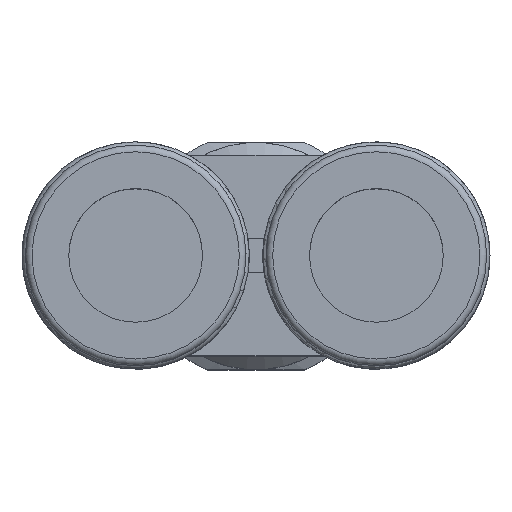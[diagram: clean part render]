
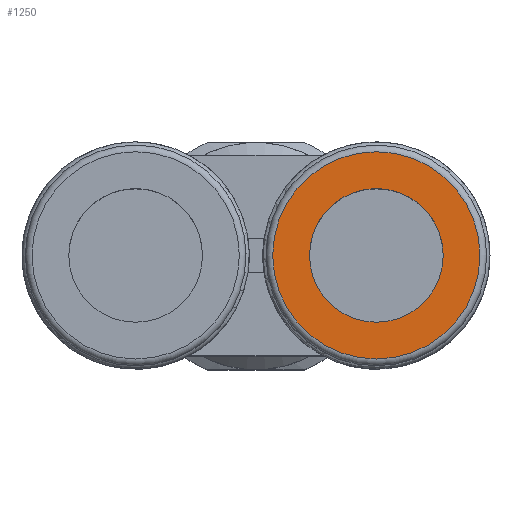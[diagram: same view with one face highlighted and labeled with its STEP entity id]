
A CAD part, top view. The second image highlights one B-rep face of the part: STEP entity #1250.
In plain terms, the highlighted planar face has unit normal (0, 0, 1).
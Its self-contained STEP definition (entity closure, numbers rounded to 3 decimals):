
#207=PLANE($,#1358);
#238=FACE_BOUND($,#372,.T.);
#239=FACE_BOUND($,#373,.T.);
#372=EDGE_LOOP($,(#899));
#373=EDGE_LOOP($,(#900));
#489=CIRCLE($,#1357,5.);
#490=CIRCLE($,#1359,7.75);
#581=VERTEX_POINT($,#2020);
#582=VERTEX_POINT($,#2023);
#705=EDGE_CURVE($,#581,#581,#489,.T.);
#706=EDGE_CURVE($,#582,#582,#490,.T.);
#899=ORIENTED_EDGE($,*,*,#705,.T.);
#900=ORIENTED_EDGE($,*,*,#706,.F.);
#1250=ADVANCED_FACE($,(#238,#239),#207,.F.);
#1357=AXIS2_PLACEMENT_3D($,#2021,#1570,#1571);
#1358=AXIS2_PLACEMENT_3D($,#2022,#1572,#1573);
#1359=AXIS2_PLACEMENT_3D($,#2024,#1574,#1575);
#1570=DIRECTION('center_axis',(0.,0.,-1.));
#1571=DIRECTION('ref_axis',(1.,0.,0.));
#1572=DIRECTION('center_axis',(0.,0.,-1.));
#1573=DIRECTION('ref_axis',(-1.,0.,0.));
#1574=DIRECTION('center_axis',(0.,0.,-1.));
#1575=DIRECTION('ref_axis',(-1.,0.,0.));
#2020=CARTESIAN_POINT('',(14.,0.,39.7));
#2021=CARTESIAN_POINT('Origin',(9.,0.,39.7));
#2022=CARTESIAN_POINT('Origin',(9.,0.,39.7));
#2023=CARTESIAN_POINT('',(16.75,0.,39.7));
#2024=CARTESIAN_POINT('Origin',(9.,0.,39.7));
